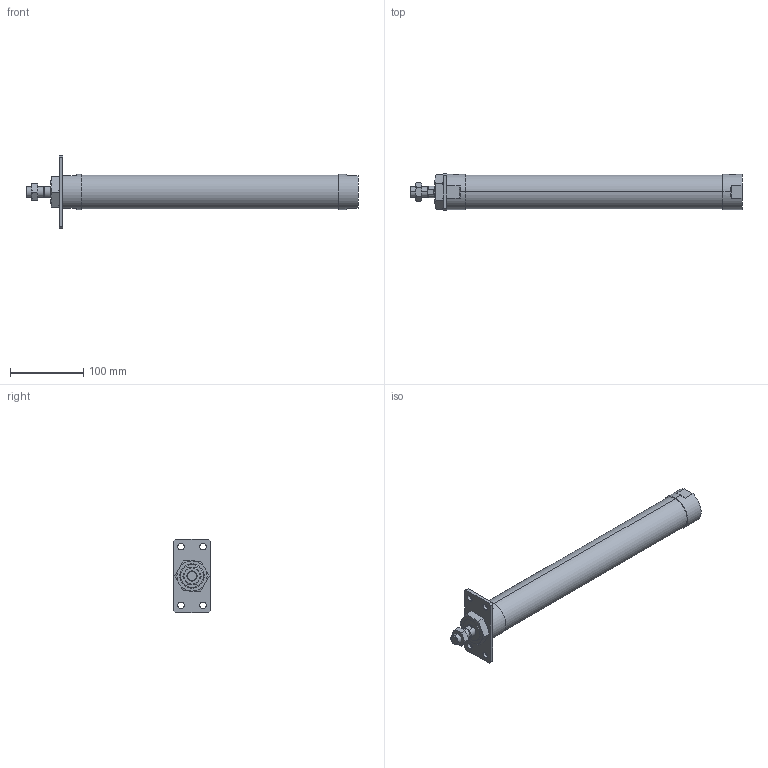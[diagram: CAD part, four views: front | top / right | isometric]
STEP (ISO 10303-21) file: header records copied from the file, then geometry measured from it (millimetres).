
FILE_DESCRIPTION (( 'STEP AP203' ), '1' );
FILE_NAME ('JGND2-40-300-A.STEP', '2016-08-04T03:16:10', ( '' ), ( '' ), 'SwSTEP 2.0', 'SolidWorks 2014', '' );
FILE_SCHEMA (( 'CONFIG_CONTROL_DESIGN' ));
Length unit declared in the file: millimetre
Products named in the file (5): JGND2-40-300-A; J#2-40-300(P); J#2-40-A
Assembly tree (4 placements, depth 2):
  JGND2-40-300-A
    J#2-40-300(P)
    (unnamed)
    (unnamed)
    J#2-40-A
Bounding box: 453 x 50 x 100 mm (x, y, z)
Volume: 720205.7 mm3; surface area: 82248 mm2
Topology: 4 solids, 4 shells, 109 faces, 254 edges, 155 vertices
Faces by surface type: plane 42, cylinder 30, torus 24, cone 13
Entity records: 4068 total; most frequent: CARTESIAN_POINT 1112, DIRECTION 511, ORIENTED_EDGE 500, EDGE_CURVE 250, AXIS2_PLACEMENT_3D 208, VERTEX_POINT 155, EDGE_LOOP 129, FACE_OUTER_BOUND 109
